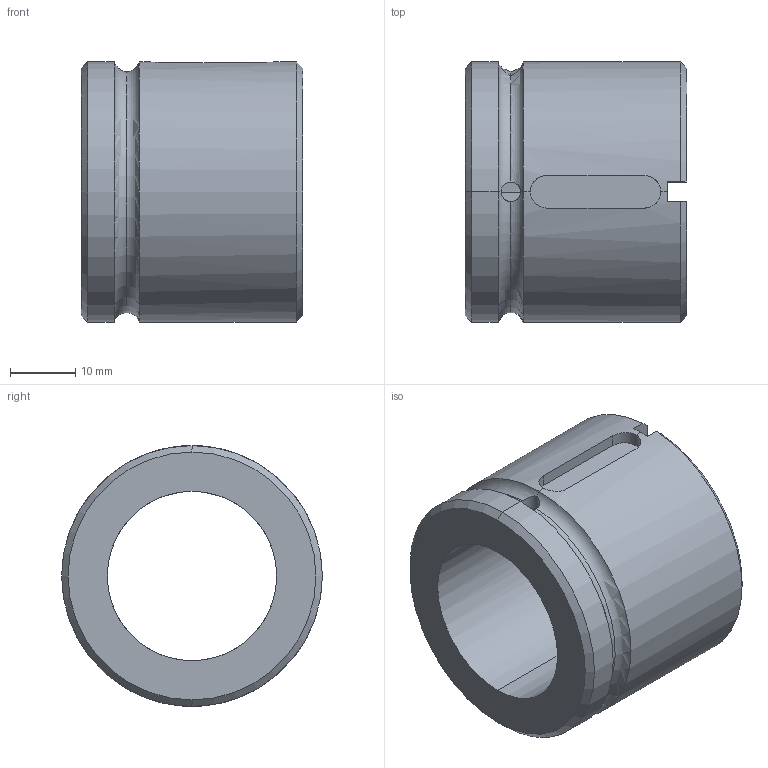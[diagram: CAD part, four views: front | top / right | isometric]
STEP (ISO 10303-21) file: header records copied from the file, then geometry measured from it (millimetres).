
FILE_DESCRIPTION (( 'STEP AP214' ), '1' );
FILE_NAME ('KGM-D 2505.STEP', '2021-01-19T01:20:04', ( 'user' ), ( 'datathink' ), 'SwSTEP 2.0', 'SolidWorks 2013', '' );
FILE_SCHEMA (( 'AUTOMOTIVE_DESIGN' ));
Length unit declared in the file: millimetre
Products named in the file (1): KGM-D 2505
Bounding box: 34 x 40 x 40 mm (x, y, z)
Volume: 23678.7 mm3; surface area: 8670.3 mm2
Topology: 1 solids, 1 shells, 31 faces, 84 edges, 52 vertices
Faces by surface type: plane 12, cylinder 11, torus 4, cone 4
Entity records: 1171 total; most frequent: CARTESIAN_POINT 350, ORIENTED_EDGE 168, DIRECTION 167, EDGE_CURVE 84, AXIS2_PLACEMENT_3D 65, VERTEX_POINT 52, VECTOR 37, LINE 37
